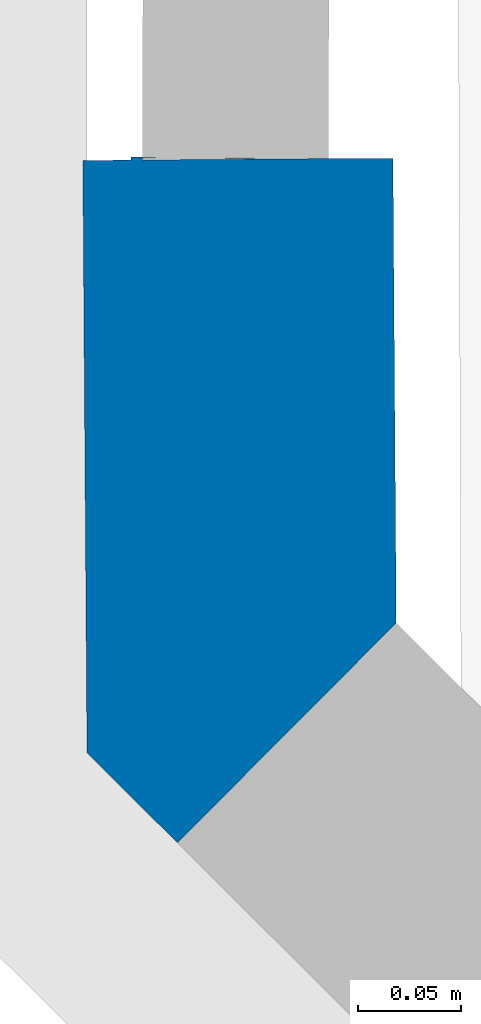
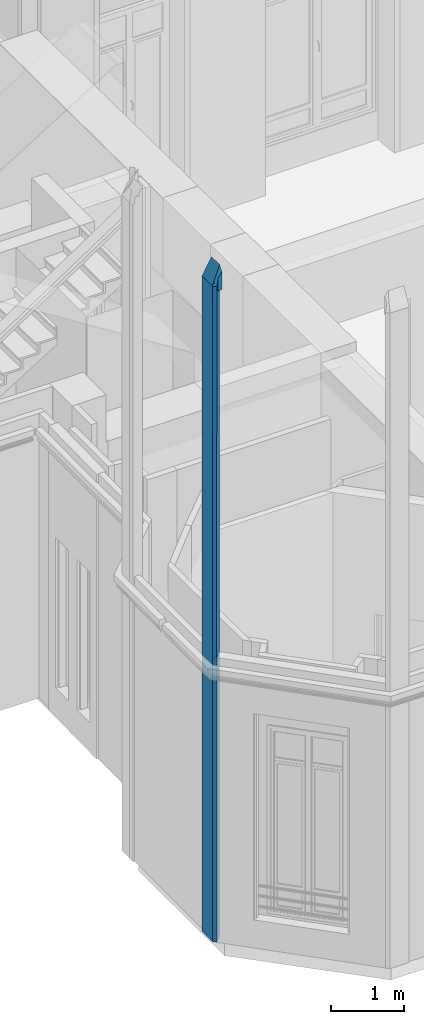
# One storey, part 40 of 97: 1 wall.
"""IFC2X3 building model written with IfcOpenShell, lengths in centimetres."""

from ifc_helpers import new_model, entity, si_unit, converted_unit, direction, frame, origin, origin_with_axes, place, context, subcontext, project, spatial, faceted_brep, material, layer, layer_set, layer_usage, type_object, element, save


model = new_model("IFC2X3")

# Units and contexts
model_context = context("Model", 3, precision=0.0001, world=origin(), true_north=direction((0.225632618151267, 0.974212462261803, 0.0)))
body_context = subcontext(model_context, "Body", "Model", "MODEL_VIEW")
ifc_project = project(units=[si_unit("LENGTHUNIT", "METRE", prefix="CENTI"), si_unit("AREAUNIT", "SQUARE_METRE", prefix="CENTI"), si_unit("VOLUMEUNIT", "CUBIC_METRE", prefix="CENTI"), converted_unit("PLANEANGLEUNIT", "DEGREE", entity("IfcRatioMeasure", 0.0174532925), si_unit("PLANEANGLEUNIT", "RADIAN"), dimensions=[0, 0, 0, 0, 0, 0, 0])], contexts=[model_context])

# Site, building, storey
site_placement = place(None, origin_with_axes())
site = spatial("IfcSite", under=ifc_project, at=site_placement, Name="Default Site", CompositionType="ELEMENT")
building_placement = place(site_placement, origin_with_axes())
building = spatial("IfcBuilding", under=site, at=building_placement, Name="Default Building", CompositionType="ELEMENT")
storey_placement = place(building_placement, origin_with_axes())
storey = spatial("IfcBuildingStorey", under=building, at=storey_placement, Name="Rez-de-chaussée", CompositionType="ELEMENT", Elevation=0.0)

# Wall
ifc_material = material(Name="<aucun>")
ifc_layer = layer(ifc_material, 15.0)
ifc_layer_set = layer_set([ifc_layer], Name="default")
ifc_layer_usage = layer_usage(ifc_layer_set, "AXIS2", "POSITIVE", -7.5)
wall_type = type_object("IfcWallType", Name="default 150", PredefinedType="NOTDEFINED", material=ifc_layer_set)
wall_placement = place(storey_placement, frame((-1256.53404776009, -966.254006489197, 0.0128503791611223), z_axis=(0.0, 0.0, 1.0), x_axis=(-0.00704658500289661, 0.999975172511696, 0.0)))
element("IfcWall", 1, at=wall_placement, inside=storey, type_object=wall_type, material=ifc_layer_usage, Name="Enveloppe 375320", context=body_context, shape_type="Brep", body=[
    faceted_brep([(28.6746253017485, 7.49995825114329, -4.62918597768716e-10), (0.292191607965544, 7.49995824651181, -4.62918597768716e-10), (0.292191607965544, 7.49995824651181, 477.795339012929), (0.292191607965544, 7.49995824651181, 853.897500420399), (0.292191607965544, 7.49995824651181, 1100.30891933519), (28.6746253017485, 7.49995825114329, 1099.76179637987), (0.292191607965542, 7.49997197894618, -4.62918597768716e-10), (0.0217228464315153, 7.49997197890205, -4.62918597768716e-10), (0.0217228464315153, 7.49997197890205, 477.795339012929), (0.292191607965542, 7.49997197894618, 477.795339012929), (-0.0707284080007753, 4.92315779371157, 1104.98001613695), (3.06885729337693e-05, 4.922426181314, 1104.98001613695), (3.06885729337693e-05, 4.922426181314, 1103.22611370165), (-0.0707284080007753, 4.92315779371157, 1103.13551464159), (28.6745915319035, 4.6259895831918, 853.897500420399), (28.7746273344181, 4.62495526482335, 853.897500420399), (28.7746273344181, 4.62495526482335, 851.897550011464), (28.6745915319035, 4.6259895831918, 851.897550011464), (28.6871536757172, -3.8364519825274, 477.795339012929), (28.6811461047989, -3.83624557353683, 853.897500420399), (28.6811461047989, -3.83624557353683, 855.897546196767), (28.6811461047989, -3.83624557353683, 1120.28038539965), (28.6871536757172, -3.8364519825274, 855.897546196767), (28.6871536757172, -3.8364519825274, 853.897500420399), (28.8187577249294, 5.16266860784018, 477.795339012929), (28.67457535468, 5.16497875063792, 477.795339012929), (28.67457535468, 5.16497875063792, 851.897550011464), (28.8187577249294, 5.16266860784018, 851.897550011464), (28.8187577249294, 5.16266860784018, 853.897500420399), (28.67457535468, 5.16497875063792, 853.897500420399), (28.67457535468, 5.16497875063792, 1103.98829021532), (28.8187577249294, 5.16266860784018, 1103.98962535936), (0.238689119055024, 7.49996751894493, 853.897500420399), (0.0217228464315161, 7.49996751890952, 853.897500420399), (0.0217228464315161, 7.49996751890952, 1088.89753856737), (0.0217228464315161, 7.49996751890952, 1099.95033779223), (0.238689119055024, 7.49996751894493, 1100.22528209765), (0.292191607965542, 7.49997197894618, 853.897500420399), (0.238689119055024, 7.49997197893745, 853.897500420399), (0.238689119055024, 7.49997197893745, 1100.22528209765), (0.238689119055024, 7.49997197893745, 1100.30996837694), (0.292191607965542, 7.49997197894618, 1100.30891933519), (0.0217228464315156, 7.49997051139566, 1088.89753856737), (-2.10601539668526e-05, 7.49997051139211, 1088.89753856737), (-2.10601539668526e-05, 7.49997051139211, 1099.92277660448), (0.0217228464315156, 7.49997051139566, 1099.95033779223), (6.19249905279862, -7.49997763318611, -4.62918597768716e-10), (6.30913590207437, -7.49997763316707, -4.62918597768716e-10), (6.30913590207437, -7.49997763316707, 477.795339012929), (6.19249905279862, -7.49997763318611, 477.795339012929), (6.43435695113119, -7.49996529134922, -4.62918597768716e-10), (28.6745939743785, -7.49996528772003, -4.62918597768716e-10), (28.6745939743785, -7.49996528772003, 1126.91204586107), (6.43435695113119, -7.49996529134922, 1127.3407224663), (6.43435695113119, -7.49996529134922, 1127.30057277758), (6.30913590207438, -7.50003658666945, -4.62918597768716e-10), (6.4343569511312, -7.50003658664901, -4.62918597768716e-10), (6.4343569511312, -7.50003658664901, 1127.30057277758), (6.30913590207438, -7.50003658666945, 1127.14197673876), (6.30913590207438, -7.50003658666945, 853.897500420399), (6.30913590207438, -7.50003658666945, 477.795339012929), (28.7876918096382, 4.62481111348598, 477.795339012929), (28.8101975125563, 4.62457841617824, 477.795339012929), (28.8101975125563, 4.62457841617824, 851.897550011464), (28.7876918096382, 4.62481111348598, 851.897550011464), (6.19249905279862, -7.49997763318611, 853.897500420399), (6.30913590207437, -7.49997763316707, 853.897500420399), (6.30913590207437, -7.49997763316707, 1127.14197673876), (6.19249905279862, -7.49997763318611, 1126.99406185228), (6.19249905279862, -7.49997763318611, 1088.89753856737), (4.2305525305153e-05, -7.50002024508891, 1088.89753856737), (5.71841579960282, -7.50002024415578, 1088.89753856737), (5.71841579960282, -7.50002024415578, 1126.39324703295), (4.2305525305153e-05, -7.50002024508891, 1119.14627590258), (5.71841579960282, -7.49997482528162, 1088.89753856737), (6.19249905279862, -7.49997482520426, 1088.89753856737), (6.19249905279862, -7.49997482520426, 1126.99406185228), (6.19249905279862, -7.49997482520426, 1127.34539547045), (5.71841579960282, -7.49997482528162, 1127.35455074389), (5.71841579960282, -7.49997482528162, 1126.39324703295), (-2.55426297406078, 4.94886046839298, -4.62918597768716e-10), (1.77946485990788e-05, 7.4784745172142, -4.62918597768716e-10), (1.32750921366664e-05, 7.22068998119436, -4.62918597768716e-10), (-0.789532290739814, 6.46577493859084, -4.62918597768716e-10), (-2.37803236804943, 4.94704639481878, -4.62918597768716e-10), (-2.37803236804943, 4.94704639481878, 477.795339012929), (-0.789532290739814, 6.46577493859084, 477.795339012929), (1.32750921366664e-05, 7.22068998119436, 477.795339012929), (1.77946485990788e-05, 7.4784745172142, 477.795339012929), (-2.55426297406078, 4.94886046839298, 477.795339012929), (4.2946665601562e-05, -1.24729008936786, -4.62918597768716e-10), (1.52438488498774e-06, -0.90128816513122, -4.62918597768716e-10), (5.15669345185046, -6.29464313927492, -4.62918597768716e-10), (5.15669345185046, -6.29464313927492, 477.795339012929), (1.52438488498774e-06, -0.90128816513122, 477.795339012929), (4.2946665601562e-05, -1.24729008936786, 477.795339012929), (6.19249516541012, -7.49998148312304, -4.62918597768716e-10), (6.19249516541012, -7.49998148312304, 477.795339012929), (-4.05688519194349, 3.34178654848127, -4.62918597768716e-10), (-4.30758424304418, 3.10217220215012, -4.62918597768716e-10), (-4.36269761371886, 3.15777968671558, -4.62918597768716e-10), (-4.36269761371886, 3.15777968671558, 477.795339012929), (-4.30758424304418, 3.10217220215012, 477.795339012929), (-4.05688519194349, 3.34178654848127, 477.795339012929), (-4.30760525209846, 3.10215139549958, -4.62918597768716e-10), (-4.30760525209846, 3.10215139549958, 477.795339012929), (28.6745915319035, 4.6259895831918, -4.62918597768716e-10), (1.30898175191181, 4.9089529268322, -4.62918597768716e-10), (0.253880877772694, 7.463333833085, -4.62918597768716e-10), (28.6745744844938, 5.16492443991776, -4.62918597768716e-10), (28.6745744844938, 5.16492443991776, 1103.98829021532), (28.6746254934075, 7.49997624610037, 1099.76180632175), (0.292191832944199, 7.4999931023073, 1100.30893100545), (0.253881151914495, 7.46335957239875, 1100.37597686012), (1.30898131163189, 4.90891158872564, 1104.97923035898), (28.6745913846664, 4.62597575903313, 1104.96379603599), (28.6745744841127, 7.49995825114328, -4.62918597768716e-10), (28.6745744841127, 7.49995825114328, 1099.76179637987), (28.6745744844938, 5.16492443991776, 853.897500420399), (28.6745744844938, 5.16492443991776, 851.897550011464), (28.6745744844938, 5.16492443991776, 477.795339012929), (0.253876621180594, 7.46333828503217, 477.795339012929), (0.253876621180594, 7.46333828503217, 853.897500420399), (1.30898175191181, 4.9089529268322, 1104.9792531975), (0.253906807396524, 7.4633445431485, 1100.37596263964), (0.253906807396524, 7.4633445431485, 1100.29137172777), (1.30898175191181, 4.9089529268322, 1104.90229168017), (28.6745915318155, 5.16492443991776, 851.897550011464), (28.6745915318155, 5.16492443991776, 853.897500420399), (28.6745744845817, 4.6259895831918, 477.795339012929), (28.6745744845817, 4.6259895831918, -4.62918597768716e-10), (0.0217228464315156, 7.49997051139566, -4.62918597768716e-10), (0.253880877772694, 7.463333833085, 477.795339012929), (0.0217228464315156, 7.49997051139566, 477.795339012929), (3.11253886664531e-05, 4.92246842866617, -4.62918597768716e-10), (-0.0707284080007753, 4.92315779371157, -4.62918597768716e-10), (1.32750921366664e-05, 7.22068998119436, 1100.28078594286), (-0.789552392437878, 6.4657952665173, 1100.24761393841), (-0.0707474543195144, 4.92317705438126, 1103.13552967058), (2.45005903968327e-05, 4.9224751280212, 1103.22611892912), (1.32750921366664e-05, 7.22068998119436, 853.897500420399), (-0.789539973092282, 6.46578297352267, 477.795339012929), (-0.789539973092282, 6.46578297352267, 853.897500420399), (1.29846670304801e-05, 4.17553228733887, -4.62918597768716e-10), (0.190262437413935, 4.36311921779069, -4.62918597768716e-10), (1.52438488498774e-06, -0.90128816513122, 1110.68956890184), (5.15670481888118, -6.29465463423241, 1124.13665389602), (0.190288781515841, 4.36309257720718, 1104.18405876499), (2.01873971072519e-05, 4.17552500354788, 1104.18331092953), (5.15669345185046, -6.29464313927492, 853.897500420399), (2.44831994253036e-06, -0.901287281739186, 853.897500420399), (2.44831994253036e-06, -0.901287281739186, 477.795339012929), (-2.71754352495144, 1.4966706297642, -4.62918597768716e-10), (-2.49886709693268, 1.71228670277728, -4.62918597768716e-10), (-2.49886709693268, 1.71228670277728, 477.795339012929), (-2.71754352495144, 1.4966706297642, 477.795339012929), (1.19507429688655e-05, -1.24732078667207, -4.62918597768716e-10), (1.19507429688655e-05, -1.24732078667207, 477.795339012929), (1.56697854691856e-05, 4.77140277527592, -4.62918597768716e-10), (0.190262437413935, 4.36311921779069, 1104.18407955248), (-2.05364575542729e-05, 4.77143938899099, 1103.41964278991), (-6.15670479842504e-06, 4.17555164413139, 1104.18333171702), (-2.49886709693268, 1.71228670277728, 1104.1733030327), (-9.90588221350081e-06, -0.901276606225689, 1110.68957792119), (8.75713000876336e-06, 4.17553656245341, 1104.18331994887), (1.52438488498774e-06, -0.90128816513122, 853.897500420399), (-2.49887778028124, 1.71227648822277, 853.897500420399), (-2.49887778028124, 1.71227648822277, 477.795339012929), (-2.71754692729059, 1.49666726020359, -4.62918597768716e-10), (-2.71754692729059, 1.49666726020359, 477.795339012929), (1.29846670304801e-05, 4.17553228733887, 1104.18331661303), (-1.39508572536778e-06, 4.77142003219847, 1103.41962768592), (-0.0707337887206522, 4.92316323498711, 1103.13551888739), (-2.37800922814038, 4.94702299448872, 1100.18091798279), (-4.05689389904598, 3.34179535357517, 1100.11046658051), (-2.49886286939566, 1.71228242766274, 1104.17329969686), (-2.37803236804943, 4.94704639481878, 853.897500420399), (-4.05692338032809, 3.34182648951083, 477.795339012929), (-4.05692338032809, 3.34182648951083, 853.897500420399), (-2.49886709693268, 1.71228670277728, 853.897500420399), (-4.05687368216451, 3.34179755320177, 853.897500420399), (-4.05687368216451, 3.34179755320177, 477.795339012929), (0.749869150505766, 4.91470488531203, -4.62918597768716e-10), (3.11253886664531e-05, 4.92246842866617, 1103.22611370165), (0.749850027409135, 4.91472422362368, 1104.18628809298), (1.30898668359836, 4.9089479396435, 1104.90228778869), (0.253834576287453, 7.46338065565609, 1100.29140826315), (1.98998904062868e-05, 7.22068328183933, 1100.28078071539), (0.253880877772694, 7.463333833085, 853.897500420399), (5.51495879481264e-05, 7.22064618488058, 477.795339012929), (5.51495879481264e-05, 7.22064618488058, 853.897500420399), (-0.789533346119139, 6.46577600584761, 1100.24759890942), (-2.3780038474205, 4.94701755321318, 1100.180913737), (-0.789532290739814, 6.46577493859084, 853.897500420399), (-2.37799897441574, 4.94701146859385, 477.795339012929), (-2.37799897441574, 4.94701146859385, 853.897500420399), (28.6802144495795, -4.3745748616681, -4.62918597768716e-10), (28.6745939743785, -7.49999432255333, -4.62918597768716e-10), (28.6808344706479, -3.44748941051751, -4.62918597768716e-10), (28.6811470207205, -3.8362189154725, -4.62918597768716e-10), (28.6811470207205, -3.8362189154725, 1120.28038539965), (28.6808349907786, -3.44744057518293, 1119.57669610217), (28.6745913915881, 4.62597640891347, 1104.96379639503), (1.30898131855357, 4.90891223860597, 1104.97923071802), (6.43435685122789, -7.4999746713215, 1127.34071728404), (28.6745937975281, -7.50001092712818, 1126.91203668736), (28.6802143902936, -4.37458042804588, 1121.25484674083), (28.6808344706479, -3.44748941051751, 1119.57666912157), (28.6811343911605, -3.83621892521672, 1120.28038539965), (28.6811343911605, -3.83621892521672, 853.897500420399), (28.6808344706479, -3.44748941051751, 853.897500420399), (28.6808344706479, -3.44748941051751, 477.795339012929), (28.6811343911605, -3.83621892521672, 477.795339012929), (28.6811343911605, -3.83621892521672, -4.62918597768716e-10), (28.6745915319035, 4.6259895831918, 477.795339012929), (28.6808205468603, -3.44748942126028, 477.795339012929), (28.6808205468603, -3.44748942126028, -4.62918597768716e-10), (1.30894052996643, 4.90893590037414, 1104.9792531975), (1.30894052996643, 4.90893590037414, 1104.90229168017), (28.6811470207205, -3.8362189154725, 477.795339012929), (28.6801876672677, -4.37457481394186, 477.795339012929), (28.6801876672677, -4.37457481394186, -4.62918597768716e-10), (28.6745939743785, -7.49999432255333, 1126.91204586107), (28.6801634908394, -4.37457477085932, -4.62918597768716e-10), (28.6801634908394, -4.37457477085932, 477.795339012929), (28.6801634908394, -4.37457477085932, 1121.25484981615), (1.30898434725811, 4.90895030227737, 1104.90228963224), (0.74984769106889, 4.91472658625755, 1104.18628993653), (0.190272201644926, 4.36310934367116, 1104.18407184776), (5.15668823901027, -6.29463786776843, 1124.13666697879), (6.30913766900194, -7.50003837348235, 1127.14197534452), (5.15666349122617, -6.29467178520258, 853.897500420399), (5.15666349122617, -6.29467178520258, 477.795339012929), (-8.43588631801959e-06, 4.77142715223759, 1103.41963324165), (0.190274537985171, 4.36310698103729, 1104.18407000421), (1.56697854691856e-05, 4.77140277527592, 1105.25333919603), (3.06358197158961e-05, 4.92242246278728, 1104.97999074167), (-0.0707283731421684, 4.92316106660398, 1104.98001794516), (3.11253886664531e-05, 4.92246842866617, 1104.98001613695), (3.11254133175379e-05, 4.77140277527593, 1105.25333919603), (3.11254133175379e-05, 4.77140277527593, 1103.41961422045), (-0.0707060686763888, 4.92316820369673, 1104.98001613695), (-0.0707060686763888, 4.92316820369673, 1103.13551464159), (1.56697854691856e-05, 4.77140277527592, 1103.41961422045), (28.7746267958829, 4.62490317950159, 477.795339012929), (28.7336449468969, 0.663339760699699, 477.795339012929), (28.7099168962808, -1.63471446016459, 477.795339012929), (28.6745915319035, 4.6259895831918, 1104.96380367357), (28.6808351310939, -3.44742740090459, 1119.57670338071), (28.7099170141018, -1.63470339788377, 1116.29508191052), (28.73364528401, 0.663371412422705, 1112.1350705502), (28.774626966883, 4.62491923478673, 1104.96381254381), (28.7099168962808, -1.63471446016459, 1116.29507579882), (28.6808719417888, -3.44749001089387, 1119.57666912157), (28.6808719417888, -3.44749001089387, 853.897500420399), (28.7099168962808, -1.63471446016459, 853.897500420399), (28.7099168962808, -1.63471446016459, 851.897550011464), (28.7336775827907, 0.663339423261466, 851.897550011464), (28.7336775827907, 0.663339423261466, 853.897500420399), (28.7336449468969, 0.663339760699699, 853.897500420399), (28.7336449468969, 0.663339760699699, 851.897550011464), (28.7746054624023, 4.62490340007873, 851.897550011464), (28.7746054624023, 4.62490340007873, 853.897500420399), (28.6815495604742, -4.37458426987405, 477.795339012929), (28.6871135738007, -3.83645156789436, 477.795339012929), (28.6871135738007, -3.83645156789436, 853.897500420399), (28.6871135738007, -3.83645156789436, 855.897546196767), (28.6871135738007, -3.83645156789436, 1120.28057613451), (28.6815495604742, -4.37458426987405, 1121.25484981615), (28.6811470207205, -3.8362189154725, 853.897500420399), (28.7099185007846, -1.63471447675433, 477.795339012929), (28.7099185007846, -1.63471447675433, 851.897550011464), (28.7099185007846, -1.63471447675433, 853.897500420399), (28.8101972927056, 4.62455715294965, 477.795339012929), (28.746709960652, 0.663247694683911, 477.795339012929), (28.746709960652, 0.663247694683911, 851.897550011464), (28.7380866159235, 0.125041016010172, 851.897550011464), (28.7380866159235, 0.125041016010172, 477.795339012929), (28.7876704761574, 4.62481133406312, 477.795339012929), (28.7876704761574, 4.62481133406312, 851.897550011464), (28.8188190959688, 5.16266762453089, 477.795339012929), (28.8188190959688, 5.16266762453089, 851.897550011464), (28.8101972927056, 4.62455715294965, 851.897550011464), (28.7380534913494, 0.125041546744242, 851.897550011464), (28.7098580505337, -1.63471351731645, 851.897550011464), (28.7098580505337, -1.63471351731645, 477.795339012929), (28.7380534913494, 0.125041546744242, 477.795339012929), (28.8101972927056, 4.62455715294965, 853.897500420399), (28.7876918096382, 4.62481111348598, 853.897500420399), (28.746709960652, 0.663247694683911, 853.897500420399), (28.7746267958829, 4.62490317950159, 853.897500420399), (28.7467099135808, 0.663243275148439, 1112.13505062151), (28.787691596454, 4.62479109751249, 1104.96379261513), (28.8101976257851, 4.62458842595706, 1104.96372558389), (28.8187577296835, 5.16266905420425, 1103.98962560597), (28.6745746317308, 5.16493826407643, 1103.98829785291), (28.746735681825, 0.663247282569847, 853.897500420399), (28.746735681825, 0.663247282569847, 1112.13505306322), (28.8188190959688, 5.16266762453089, 853.897500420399), (28.8188190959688, 5.16266762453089, 1103.98962535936), (28.8101972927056, 4.62455715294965, 1104.96370830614), (-2.55426297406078, 4.94886046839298, 853.897500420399), (-0.863094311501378, 6.62365348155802, 853.897500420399), (-0.789532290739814, 6.46577493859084, 1100.24759807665), (-0.86309013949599, 6.62364926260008, 1099.95205111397), (-2.55422637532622, 4.9488234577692, 1099.9552680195), (-2.37800279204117, 4.94701648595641, 1100.18091290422), (28.7876918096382, 4.62481111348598, 1104.96380367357), (28.746710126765, 0.663263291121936, 1112.13506167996), (28.8101978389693, 4.62460844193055, 1104.96373664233), (28.810179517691, 4.62455743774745, 853.897500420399), (28.810179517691, 4.62455743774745, 1104.96370830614), (28.746709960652, 0.663247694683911, 1112.13505306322), (5.29714804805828, -6.59595238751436, 853.897500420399), (5.15669345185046, -6.29464313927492, 1124.13666286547), (5.29713347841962, -6.59593765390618, 1124.70077272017), (6.19249863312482, -7.49997720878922, 1126.99406218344), (6.30914288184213, -7.50004364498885, 1127.14197123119), (5.29716584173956, -6.59593476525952, 1088.89753856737), (5.29716584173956, -6.59593476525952, 853.897500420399), (-4.05688519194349, 3.34178654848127, 853.897500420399), (-4.30758424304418, 3.10217220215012, 853.897500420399), (-4.36269761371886, 3.15777968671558, 853.897500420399), (-4.36269761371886, 3.15777968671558, 1099.95873012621), (-4.30754579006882, 3.10213331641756, 1100.09993895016), (-4.05688843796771, 3.34178983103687, 1100.11046227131), (-2.37800376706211, 4.94701747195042, 1100.18091367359), (-2.55422735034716, 4.9488244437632, 1099.95526878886), (-4.30758424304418, 3.10217220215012, 1088.89753856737), (-4.36267660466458, 3.15780049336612, 1088.89753856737), (-4.36267660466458, 3.15780049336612, 853.897500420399), (-4.30758424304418, 3.10217220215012, 1100.09996929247), (-4.36267660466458, 3.15780049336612, 1099.95873012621), (1.77946485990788e-05, 7.4784745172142, 853.897500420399), (0.0217228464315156, 7.49997051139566, 853.897500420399), (0.253827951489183, 7.46338735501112, 1100.29141349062), (0.238669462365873, 7.49998739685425, 1100.22529760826), (0.0217097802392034, 7.49998372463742, 1099.95034810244), (-7.69462294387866e-06, 7.47850029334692, 1099.95035790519), (-2.71754352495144, 1.4966706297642, 853.897500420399), (4.2946665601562e-05, -1.24729008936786, 853.897500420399), (4.2946665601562e-05, -1.24729008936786, 1111.13302745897), (7.17821830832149e-06, -0.901293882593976, 1110.68956444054), (-2.49885001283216, 1.71226942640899, 1104.17328955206), (-2.71754288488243, 1.49666998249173, 1104.17244422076), (4.2946665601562e-05, -1.24729008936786, 1088.89753856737), (-2.71751252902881, 1.49670132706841, 1088.89753856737), (-2.71751252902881, 1.49670132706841, 853.897500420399), (-2.71751252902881, 1.49670132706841, 1104.17244472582), (-4.056898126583, 3.34179962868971, 1100.11046991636), (-4.30755547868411, 3.10214311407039, 1100.09994659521), (-2.71755996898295, 1.49668725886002, 1104.1724577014), (-2.71754352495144, 1.4966706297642, 1088.89753856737), (-4.30758084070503, 3.10217557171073, 1088.89753856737), (-4.30758084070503, 3.10217557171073, 853.897500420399), (-2.71754352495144, 1.4966706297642, 1104.17244472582), (-4.30758084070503, 3.10217557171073, 1100.09996929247), (1.77946485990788e-05, 7.4784745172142, 1099.95033779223), (-0.863084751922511, 6.62364381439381, 1099.95204686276), (-0.789526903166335, 6.46576949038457, 1100.24759382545), (3.87643636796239e-05, 7.22066420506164, 1100.2807658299), (5.29715049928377, -6.59595486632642, 1124.70075928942), (5.15671047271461, -6.29466035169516, 1124.13664943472), (5.29714804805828, -6.59595238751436, 1088.89753856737), (2.90403728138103e-05, -1.24730386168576, 1088.89753856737), (2.90403728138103e-05, -1.24730386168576, 853.897500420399), (0.238689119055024, 7.49996751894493, 1100.30996837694), (0.253880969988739, 7.46334249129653, 1100.37596742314), (0.292191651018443, 7.49997602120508, 1100.30892156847), (0.253880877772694, 7.463333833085, 1100.37596263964), (0.23874076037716, 7.49998884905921, 1100.30996837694), (0.23874076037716, 7.49998884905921, 1100.22528209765), (0.253880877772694, 7.463333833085, 1100.29137172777), (28.7099185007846, -1.63471447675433, 855.897546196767), (28.7099185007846, -1.63471447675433, 1116.29507579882), (28.6871536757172, -3.8364519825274, 1120.28057613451), (1.77946485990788e-05, 7.4784745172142, 1088.89753856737), (-2.10601539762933e-05, 7.50002836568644, 1088.89753856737), (-4.38865866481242e-07, 7.50000751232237, 1099.92276033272), (5.37156936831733e-06, 7.47848708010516, 1099.95034759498), (-2.1060150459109e-05, 7.47847451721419, 1088.89753856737), (-2.1060150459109e-05, 7.47847451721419, 1099.95033779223), (-2.10601539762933e-05, 7.50002836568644, 1099.92277660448), (5.71844646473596, -7.50000583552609, 1126.39322283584), (5.29716542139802, -6.59596995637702, 1124.70074751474), (5.7868779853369e-05, -1.24730517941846, 1111.1330156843), (4.29476859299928e-05, -7.50002024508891, 1088.89753856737), (4.29476859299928e-05, -7.50002024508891, 1119.14627590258), (6.19249914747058, -7.49996874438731, 1127.34540038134), (5.29714819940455, -6.5959381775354, 1125.72635043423), (5.29714804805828, -6.59595238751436, 1125.72634258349), (6.19248125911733, -7.49999525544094, 1127.34539547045), (6.19248125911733, -7.49999525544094, 1126.99406185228), (5.29714804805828, -6.59595238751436, 1124.70076122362), (5.29714719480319, -6.59595278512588, 1125.72634258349), (5.29714719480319, -6.59595278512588, 1124.70076122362), (-2.55423373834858, 4.94883094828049, -4.62918597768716e-10), (-2.55423373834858, 4.94883094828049, 477.795339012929), (-4.3627320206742, 3.15781442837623, -4.62918597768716e-10), (-4.3627320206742, 3.15781442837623, 477.795339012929), (1.77689210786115e-05, 7.47847454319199, -4.62918597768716e-10), (1.77689210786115e-05, 7.47847454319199, 477.795339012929), (-2.55422161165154, 4.9488187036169, 853.897500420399), (-2.55422161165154, 4.9488187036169, 1099.95529689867), (-0.863094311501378, 6.62365348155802, 1099.952054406), (-4.3627320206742, 3.15781442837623, 853.897500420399), (-4.3627320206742, 3.15781442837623, 1088.89753856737), (-4.3627320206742, 3.15781442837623, 1099.95873012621), (-2.55426297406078, 4.94886046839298, 1099.95529689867), (0.021722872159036, 7.49997048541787, 1088.89753856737), (0.021722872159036, 7.49997048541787, 853.897500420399), (-0.863106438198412, 6.62366572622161, 853.897500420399), (-0.863106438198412, 6.62366572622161, 1099.952054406)], [[[0, 1, 2, 3, 4, 5]], [[6, 7, 8, 9]], [[10, 11, 12, 13]], [[14, 15, 16, 17]], [[18, 19, 20, 21, 22, 23]], [[24, 25, 26, 27]], [[28, 29, 30, 31]], [[32, 33, 34, 35, 36]], [[37, 38, 39, 40, 41]], [[42, 43, 44, 45]], [[46, 47, 48, 49]], [[50, 51, 52, 53, 54]], [[55, 56, 57, 58, 59, 60]], [[61, 62, 63, 64]], [[65, 66, 67, 68, 69]], [[70, 71, 72, 73]], [[74, 75, 76, 77, 78, 79]], [[80, 81, 82, 83, 84]], [[85, 86, 87, 88, 89]], [[46, 90, 91, 92, 55]], [[60, 93, 94, 95, 49]], [[90, 96, 97, 95]], [[80, 84, 98, 99, 100]], [[101, 102, 103, 85, 89]], [[100, 104, 105, 101]], [[106, 107, 108, 6, 0, 109]], [[110, 111, 112, 113, 114, 115]], [[109, 116, 117, 110, 118, 119, 120]], [[37, 9, 121, 122]], [[123, 124, 125, 126]], [[14, 17, 127, 128]], [[109, 120, 129, 130]], [[131, 6, 108, 82, 81]], [[88, 87, 132, 9, 133]], [[134, 135, 83, 82]], [[136, 137, 138, 139]], [[140, 87, 141, 142]], [[143, 144, 92, 91]], [[145, 146, 147, 148]], [[149, 150, 151, 93]], [[152, 153, 91, 90]], [[95, 94, 154, 155]], [[152, 156, 157, 155]], [[143, 158, 144]], [[159, 160, 161]], [[143, 91, 153]], [[162, 163, 164]], [[165, 166, 167, 94]], [[152, 99, 98, 153]], [[154, 103, 102, 155]], [[99, 168, 169, 102]], [[153, 98, 84, 135, 158, 143]], [[170, 171, 172, 173, 174, 175]], [[176, 85, 177, 178]], [[179, 180, 181, 154]], [[82, 108, 107, 182, 134]], [[183, 184, 185, 186, 187]], [[188, 132, 189, 190]], [[84, 83, 135]], [[13, 191, 192]], [[193, 86, 194, 195]], [[196, 197, 50, 107, 106, 198, 199]], [[200, 201, 202, 203, 204, 205, 206]], [[207, 208, 209, 210]], [[211, 212, 213, 198]], [[214, 215, 216, 106]], [[53, 217, 218, 54]], [[219, 220, 221, 199]], [[222, 197, 223, 224, 225]], [[55, 92, 144, 182, 107, 50]], [[54, 226, 227, 228, 229, 230]], [[59, 231, 232, 60]], [[182, 144, 158, 134]], [[183, 233, 234, 184]], [[135, 134, 158]], [[235, 236, 237]], [[238, 239, 240, 183]], [[235, 241, 242, 243]], [[244, 245, 246, 211, 214]], [[247, 248, 249, 250, 251]], [[252, 253, 254, 255]], [[255, 256, 257, 258]], [[259, 260, 261, 262]], [[263, 264, 265, 266, 267, 268]], [[211, 246, 18]], [[269, 255, 210]], [[18, 270, 271, 272, 23]], [[120, 24, 273, 61, 274, 246, 245, 244, 214]], [[275, 276, 277, 274]], [[274, 278, 279, 275]], [[273, 280, 281, 282]], [[283, 284, 285, 286]], [[118, 28, 287, 288, 289, 255, 259, 290, 14]], [[247, 251, 250, 249, 291, 292, 293, 294, 295]], [[255, 296, 297, 252]], [[287, 298, 299, 300]], [[176, 301, 302, 193]], [[303, 304, 305, 306]], [[287, 289, 288]], [[307, 308, 309]], [[289, 310, 311, 312]], [[59, 65, 313, 149]], [[314, 315, 316, 317]], [[69, 318, 319, 65]], [[301, 176, 320, 321, 322]], [[323, 324, 325, 326, 327]], [[328, 329, 330, 321]], [[331, 332, 329, 328]], [[333, 334, 32, 188, 140]], [[136, 335, 336, 337, 338]], [[339, 179, 165, 340]], [[341, 342, 343, 344]], [[345, 346, 347, 340]], [[341, 348, 346, 345]], [[339, 321, 320, 179]], [[162, 349, 350, 351]], [[352, 353, 354, 339]], [[355, 356, 353, 352]], [[140, 193, 302, 333]], [[357, 358, 359, 360]], [[165, 149, 313, 340]], [[341, 361, 362, 342]], [[363, 364, 365, 313]], [[37, 188, 32]], [[366, 367, 368]], [[369, 370, 371, 372]], [[22, 373, 374, 375]], [[376, 377, 42]], [[45, 378, 379]], [[377, 380, 381, 382]], [[345, 363, 74, 70]], [[73, 383, 384, 385]], [[345, 386, 387, 341]], [[363, 69, 74]], [[78, 388, 389]], [[390, 391, 392, 393]], [[78, 394, 395, 79]], [[81, 396, 397, 88]], [[80, 398, 399, 89]], [[131, 400, 401, 133]], [[302, 402, 403, 404]], [[301, 405, 406, 407, 408]], [[376, 409, 410, 333]], [[333, 411, 412, 357, 376]]]),
])

save(model, "model.ifc")
